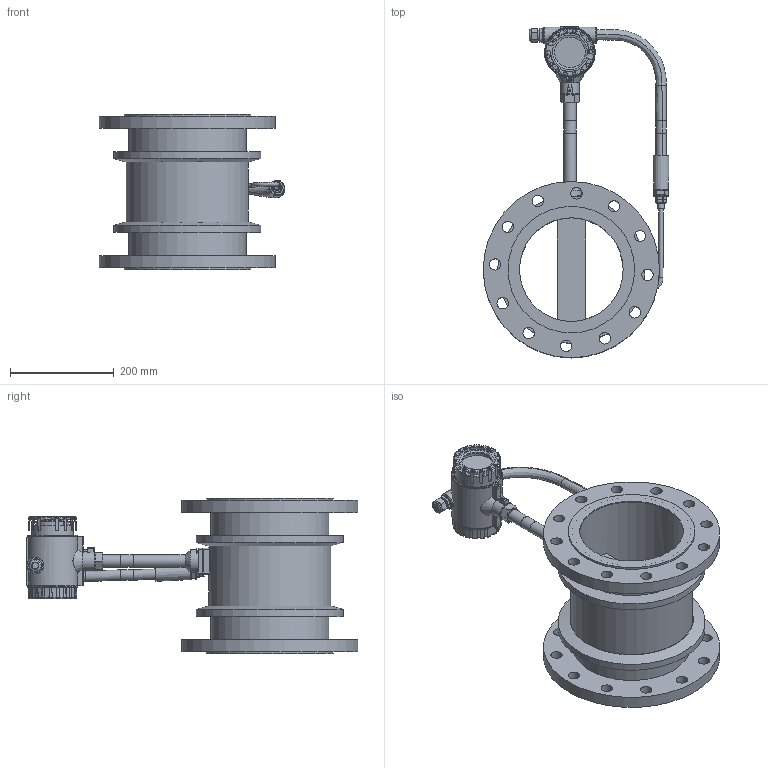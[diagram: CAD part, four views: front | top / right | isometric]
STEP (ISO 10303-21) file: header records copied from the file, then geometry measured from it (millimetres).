
FILE_DESCRIPTION(/* description */ ('STEP AP214'),/* implementation_level */ '2;1');
FILE_NAME(/* name */ 'DN200 vortex.step',/* time_stamp */ '2025-09-25T18:15:50+03:00',/* author */ (''),/* organization */ (''),/* preprocessor_version */ 'ST-DEVELOPER v20.1',/* originating_system */ 'Autodesk Translation Framework v14.10.0.0',/* authorisation */ '');
FILE_SCHEMA (('AUTOMOTIVE_DESIGN { 1 0 10303 214 3 1 1 }'));
Length unit declared in the file: millimetre
Products named in the file (1): DN100法兰连接装配体
Bounding box: 358.01 x 640.14 x 300.03 mm (x, y, z)
Volume: 7111177.3 mm3; surface area: 1155786.2 mm2
Topology: 22 solids, 23 shells, 916 faces, 2269 edges, 1437 vertices
Faces by surface type: plane 513, cylinder 257, torus 60, cone 53, bspline 28, sphere 5
Full cylindrical faces by diameter (mm): 3.2 x1, 3.3 x1, 3.65 x2, 4.2 x10, 6 x12, 8 x4, 8.7 x2, 9 x2, 10 x1, 12 x1, 12.4 x1, 13 x1, 14 x1, 16 x2, 17.727 x4, 18 x5, 19 x7, 19.2 x2, 20 x1, 20.6 x1, 20.655 x1, 22 x24, 22.6 x1, 24 x2, 24.2 x1, 28 x2, 31.9 x2, 38 x1, 44 x1, 59 x1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
Entity records: 31685 total; most frequent: CARTESIAN_POINT 9302, DIRECTION 4880, ORIENTED_EDGE 4508, EDGE_CURVE 2254, AXIS2_PLACEMENT_3D 1863, VERTEX_POINT 1437, LINE 1154, VECTOR 1154
